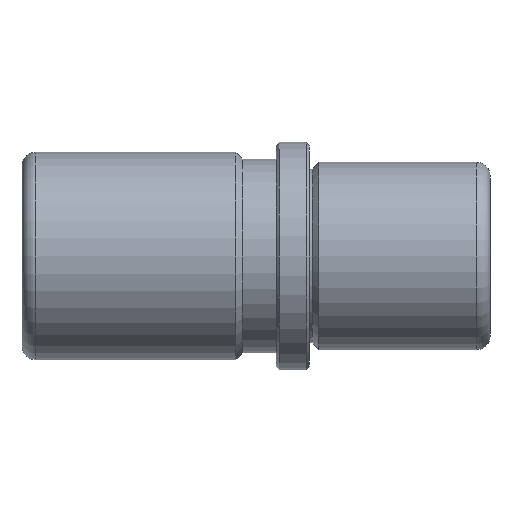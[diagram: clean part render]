
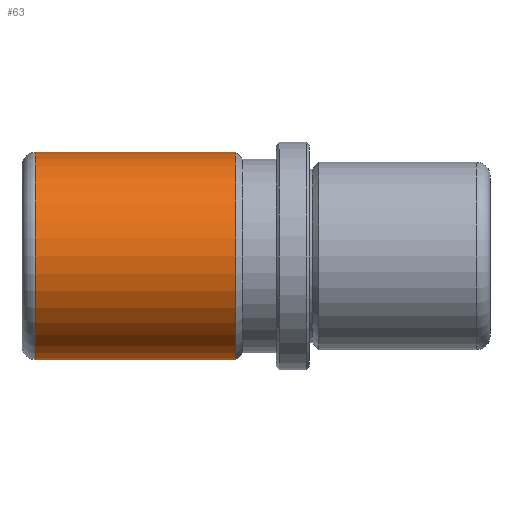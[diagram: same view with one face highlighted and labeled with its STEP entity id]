
A CAD part, front view. The second image highlights one B-rep face of the part: STEP entity #63.
In plain terms, the highlighted cylindrical face has radius 15.5 mm (diameter 31 mm), a full revolution.
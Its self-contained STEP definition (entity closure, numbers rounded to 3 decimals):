
#63 = ADVANCED_FACE( '', ( #140, #141, #142 ), #143, .T. );
#140 = FACE_OUTER_BOUND( '', #233, .T. );
#141 = FACE_BOUND( '', #234, .T. );
#142 = FACE_OUTER_BOUND( '', #235, .T. );
#143 = CYLINDRICAL_SURFACE( '', #236, 15.5 );
#233 = EDGE_LOOP( '', ( #338 ) );
#234 = EDGE_LOOP( '', ( #339 ) );
#235 = EDGE_LOOP( '', ( #340 ) );
#236 = AXIS2_PLACEMENT_3D( '', #341, #342, #343 );
#338 = ORIENTED_EDGE( '', *, *, #413, .T. );
#339 = ORIENTED_EDGE( '', *, *, #437, .T. );
#340 = ORIENTED_EDGE( '', *, *, #430, .F. );
#341 = CARTESIAN_POINT( '', ( 27., 0., 0. ) );
#342 = DIRECTION( '', ( -1., 0., 0. ) );
#343 = DIRECTION( '', ( 0., 0., -1. ) );
#413 = EDGE_CURVE( '', #457, #457, #458, .T. );
#430 = EDGE_CURVE( '', #485, #485, #486, .T. );
#437 = EDGE_CURVE( '', #496, #496, #497, .T. );
#457 = VERTEX_POINT( '', #522 );
#458 = CIRCLE( '', #523, 15.5 );
#485 = VERTEX_POINT( '', #550 );
#486 = CIRCLE( '', #551, 15.5 );
#496 = VERTEX_POINT( '', #561 );
#497 = B_SPLINE_CURVE_WITH_KNOTS( '', 3, ( #562, #563, #564, #565, #566, #567, #568, #569, #570, #571, #572, #573, #574, #575, #576, #577, #578, #579, #580, #581, #582, #583, #584, #585, #586, #587, #588, #589, #590, #591, #592, #593, #594, #595, #596, #597, #598, #599, #600, #601, #602, #603, #604, #605, #606, #607, #608, #609, #610, #611, #612, #613, #614, #615, #616, #617, #618, #619, #620, #621 ), .UNSPECIFIED., .T., .F., ( 2, 2, 2, 2, 2, 2, 2, 2, 2, 2, 2, 2, 2, 2, 2, 2, 2, 2, 2, 2, 2, 2, 2, 2, 2, 2, 2, 2, 2, 2, 2, 2 ), ( 0., 0., 0., 0.001, 0.001, 0.002, 0.003, 0.003, 0.004, 0.004, 0.005, 0.005, 0.006, 0.006, 0.007, 0.007, 0.008, 0.009, 0.009, 0.01, 0.01, 0.011, 0.011, 0.012, 0.012, 0.013, 0.013, 0.013, 0.014, 0.015, 0.015, 0.016 ), .UNSPECIFIED. );
#522 = CARTESIAN_POINT( '', ( -41., 0., -15.5 ) );
#523 = AXIS2_PLACEMENT_3D( '', #703, #704, #705 );
#550 = CARTESIAN_POINT( '', ( -11., 0., -15.5 ) );
#551 = AXIS2_PLACEMENT_3D( '', #736, #737, #738 );
#561 = CARTESIAN_POINT( '', ( -18., 15.304, -2.459 ) );
#562 = CARTESIAN_POINT( '', ( -18.163, 15.304, -2.459 ) );
#563 = CARTESIAN_POINT( '', ( -17.837, 15.304, -2.459 ) );
#564 = CARTESIAN_POINT( '', ( -17.677, 15.306, -2.443 ) );
#565 = CARTESIAN_POINT( '', ( -17.363, 15.316, -2.38 ) );
#566 = CARTESIAN_POINT( '', ( -17.207, 15.324, -2.333 ) );
#567 = CARTESIAN_POINT( '', ( -16.909, 15.342, -2.209 ) );
#568 = CARTESIAN_POINT( '', ( -16.768, 15.353, -2.133 ) );
#569 = CARTESIAN_POINT( '', ( -16.501, 15.376, -1.955 ) );
#570 = CARTESIAN_POINT( '', ( -16.375, 15.389, -1.851 ) );
#571 = CARTESIAN_POINT( '', ( -16.035, 15.428, -1.512 ) );
#572 = CARTESIAN_POINT( '', ( -15.852, 15.453, -1.238 ) );
#573 = CARTESIAN_POINT( '', ( -15.668, 15.48, -0.794 ) );
#574 = CARTESIAN_POINT( '', ( -15.621, 15.488, -0.639 ) );
#575 = CARTESIAN_POINT( '', ( -15.557, 15.497, -0.322 ) );
#576 = CARTESIAN_POINT( '', ( -15.542, 15.5, -0.162 ) );
#577 = CARTESIAN_POINT( '', ( -15.541, 15.5, 0.159 ) );
#578 = CARTESIAN_POINT( '', ( -15.557, 15.497, 0.322 ) );
#579 = CARTESIAN_POINT( '', ( -15.62, 15.488, 0.638 ) );
#580 = CARTESIAN_POINT( '', ( -15.667, 15.481, 0.791 ) );
#581 = CARTESIAN_POINT( '', ( -15.79, 15.462, 1.089 ) );
#582 = CARTESIAN_POINT( '', ( -15.867, 15.451, 1.233 ) );
#583 = CARTESIAN_POINT( '', ( -16.045, 15.428, 1.499 ) );
#584 = CARTESIAN_POINT( '', ( -16.147, 15.415, 1.623 ) );
#585 = CARTESIAN_POINT( '', ( -16.376, 15.389, 1.852 ) );
#586 = CARTESIAN_POINT( '', ( -16.499, 15.377, 1.954 ) );
#587 = CARTESIAN_POINT( '', ( -16.765, 15.353, 2.132 ) );
#588 = CARTESIAN_POINT( '', ( -16.909, 15.342, 2.209 ) );
#589 = CARTESIAN_POINT( '', ( -17.207, 15.324, 2.333 ) );
#590 = CARTESIAN_POINT( '', ( -17.36, 15.316, 2.379 ) );
#591 = CARTESIAN_POINT( '', ( -17.675, 15.306, 2.442 ) );
#592 = CARTESIAN_POINT( '', ( -17.838, 15.304, 2.458 ) );
#593 = CARTESIAN_POINT( '', ( -18.32, 15.304, 2.459 ) );
#594 = CARTESIAN_POINT( '', ( -18.644, 15.314, 2.394 ) );
#595 = CARTESIAN_POINT( '', ( -19.088, 15.342, 2.21 ) );
#596 = CARTESIAN_POINT( '', ( -19.231, 15.353, 2.134 ) );
#597 = CARTESIAN_POINT( '', ( -19.5, 15.377, 1.955 ) );
#598 = CARTESIAN_POINT( '', ( -19.623, 15.389, 1.853 ) );
#599 = CARTESIAN_POINT( '', ( -19.85, 15.415, 1.627 ) );
#600 = CARTESIAN_POINT( '', ( -19.954, 15.428, 1.501 ) );
#601 = CARTESIAN_POINT( '', ( -20.132, 15.451, 1.234 ) );
#602 = CARTESIAN_POINT( '', ( -20.208, 15.462, 1.093 ) );
#603 = CARTESIAN_POINT( '', ( -20.332, 15.48, 0.795 ) );
#604 = CARTESIAN_POINT( '', ( -20.379, 15.488, 0.639 ) );
#605 = CARTESIAN_POINT( '', ( -20.442, 15.497, 0.325 ) );
#606 = CARTESIAN_POINT( '', ( -20.458, 15.5, 0.164 ) );
#607 = CARTESIAN_POINT( '', ( -20.459, 15.5, -0.16 ) );
#608 = CARTESIAN_POINT( '', ( -20.443, 15.497, -0.32 ) );
#609 = CARTESIAN_POINT( '', ( -20.38, 15.488, -0.635 ) );
#610 = CARTESIAN_POINT( '', ( -20.333, 15.48, -0.792 ) );
#611 = CARTESIAN_POINT( '', ( -20.21, 15.462, -1.089 ) );
#612 = CARTESIAN_POINT( '', ( -20.135, 15.452, -1.23 ) );
#613 = CARTESIAN_POINT( '', ( -19.956, 15.428, -1.498 ) );
#614 = CARTESIAN_POINT( '', ( -19.853, 15.415, -1.624 ) );
#615 = CARTESIAN_POINT( '', ( -19.514, 15.377, -1.964 ) );
#616 = CARTESIAN_POINT( '', ( -19.24, 15.351, -2.147 ) );
#617 = CARTESIAN_POINT( '', ( -18.796, 15.324, -2.331 ) );
#618 = CARTESIAN_POINT( '', ( -18.641, 15.316, -2.379 ) );
#619 = CARTESIAN_POINT( '', ( -18.323, 15.306, -2.443 ) );
#620 = CARTESIAN_POINT( '', ( -18.163, 15.304, -2.459 ) );
#621 = CARTESIAN_POINT( '', ( -17.837, 15.304, -2.459 ) );
#703 = CARTESIAN_POINT( '', ( -41., 0., 0. ) );
#704 = DIRECTION( '', ( 1., 0., 0. ) );
#705 = DIRECTION( '', ( 0., 0., -1. ) );
#736 = CARTESIAN_POINT( '', ( -11., 0., 0. ) );
#737 = DIRECTION( '', ( 1., 0., 0. ) );
#738 = DIRECTION( '', ( 0., 0., -1. ) );
